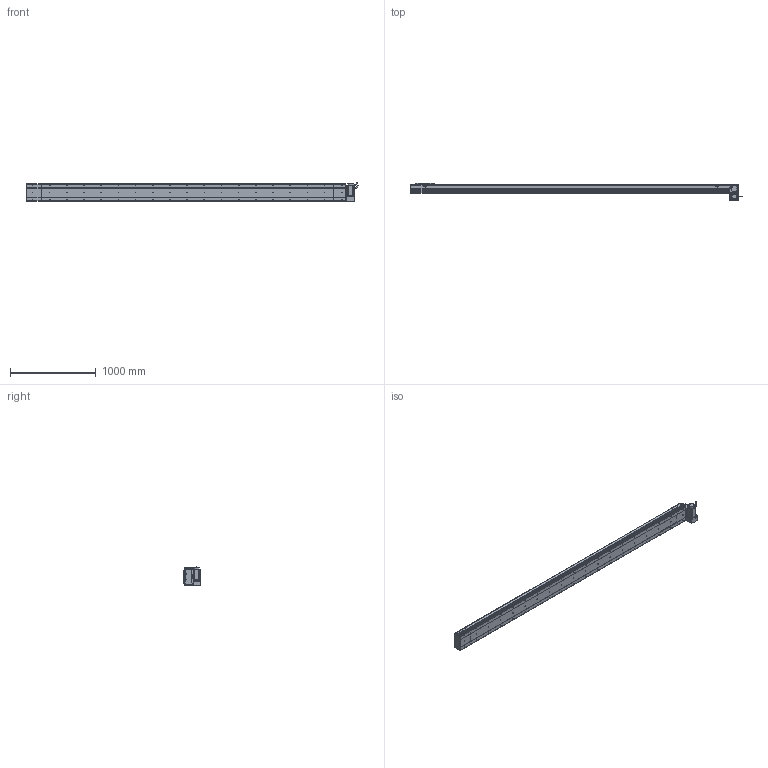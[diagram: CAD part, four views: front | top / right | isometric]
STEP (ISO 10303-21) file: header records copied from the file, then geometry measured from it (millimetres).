
FILE_DESCRIPTION (( 'STEP AP214' ), '1' );
FILE_NAME ('D20 CBH RU S3400.STEP', '2010-06-30T10:53:24', ( 'Conseil Régional Haute-Normandie' ), ( 'Conseil Régional Haute-Normandie' ), 'SwSTEP 2.0', 'SolidWorks 2010', '' );
FILE_SCHEMA (( 'AUTOMOTIVE_DESIGN' ));
Length unit declared in the file: millimetre
Products named in the file (31): Plaque de Bout Head D20 RU_Default; Plaque De Serrage D20_Default; Plaque de Bout Tail D20_Default; Couvercle_Default; vis M5 L15_Default; Corp Tail D20_Default; Head RU_Default; D20 CBH RU S3400; Support moteur RU_Default; Glissiere_Default; Corp Tail D20 RU_Default; Tail D20_Default; Plaque De Serrage D20 RU_Default; Couvercle S3400_Default; Couvercle RU_Default; Chariot D20_Default; Support Chariot D20_Default; Cache Support Moteur RU_Default; Corp S3400_Default; Corp D20 S3400_Default; Rondelle Cache D20 RU_Default; avant 90BLDC125A-640; Moteur motionking 90BLDC125A-640; vis M5 L47_Default; ecrou_Default; vis M5 L30_Default; Conecteur_Default; Conecteur2_Default; codeur 90BLDC125-640; corps 90BLDC125A-640
Assembly tree (66 placements, depth 4):
  D20 CBH RU S3400
    Chariot D20_Default
      Support Chariot D20_Default
      Glissiere_Default
      Chariot D20_Default
      vis M5 L15_Default  x8
    Head RU_Default
      ecrou_Default  x4
      vis M5 L30_Default  x4
      vis M5 L15_Default  x12
      Rondelle Cache D20 RU_Default  x3
      Plaque De Serrage D20 RU_Default
      Cache Support Moteur RU_Default
      Support moteur RU_Default
      Couvercle RU_Default
      Corp Tail D20 RU_Default
      vis M5 L47_Default  x4
      Moteur motionking 90BLDC125A-640
        corps 90BLDC125A-640
        avant 90BLDC125A-640
        Conecteur2_Default
        Conecteur_Default
        codeur 90BLDC125-640
      Plaque de Bout Head D20 RU_Default
    Corp D20 S3400_Default
      Corp S3400_Default
      Couvercle S3400_Default
    Tail D20_Default
      Corp Tail D20_Default
      Plaque De Serrage D20_Default
      vis M5 L15_Default  x6
      Couvercle_Default
      Plaque de Bout Tail D20_Default
Bounding box: 3864.45 x 209 x 229.7 mm (x, y, z)
Volume: 25768349.6 mm3; surface area: 4934148.3 mm2
Topology: 103 solids, 103 shells, 3832 faces, 9524 edges, 6190 vertices
Faces by surface type: plane 2117, bspline 806, cylinder 746, torus 91, cone 68, sphere 4
Entity records: 161086 total; most frequent: CARTESIAN_POINT 82584, ORIENTED_EDGE 15516, DIRECTION 11946, EDGE_CURVE 7758, VERTEX_POINT 5134, LINE 4978, VECTOR 4978, AXIS2_PLACEMENT_3D 3484
